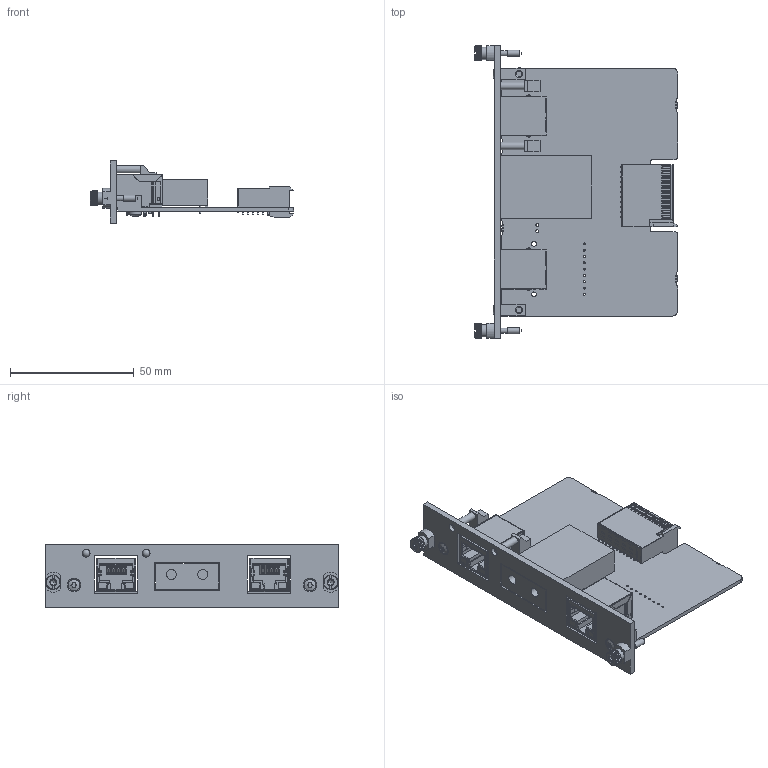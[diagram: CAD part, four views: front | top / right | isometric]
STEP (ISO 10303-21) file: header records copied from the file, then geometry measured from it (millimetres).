
FILE_DESCRIPTION(/* description */ (''),/* implementation_level */ '2;1');
FILE_NAME(/* name */ 'SIM6.3_3D CAD_20250318.stp',/* time_stamp */ '2025-03-18T14:05:01+01:00',/* author */ ('DSP'),/* organization */ (''),/* preprocessor_version */ 'ST-DEVELOPER v19.2',/* originating_system */ 'Autodesk Inventor 2023',/* authorisation */ '');
FILE_SCHEMA (('AUTOMOTIVE_DESIGN { 1 0 10303 214 3 1 1 }'));
Products named in the file (1): SIM6.3_3D CAD_SMPL_20250318
Bounding box: 81.9 x 117.85 x 25.06 mm (x, y, z)
Volume: 36006.1 mm3; surface area: 41422.7 mm2
Topology: 12 solids, 12 shells, 6429 faces, 18378 edges, 11948 vertices
Faces by surface type: plane 4336, cylinder 1895, cone 78, sphere 49, torus 47, bspline 24
Full cylindrical faces by diameter (mm): 0.46 x9, 0.6 x4, 0.7 x66, 0.8 x18, 0.9 x16, 1 x8, 1.15 x6, 1.27 x2, 1.422 x4, 1.59 x2, 1.6 x4, 1.9 x4, 2 x2, 2.5 x4, 2.9 x2, 2.997 x2, 3.2 x2, 4 x2, 4.7 x2, 5 x4
Entity records: 218996 total; most frequent: CARTESIAN_POINT 42055, ORIENTED_EDGE 36662, DIRECTION 34495, EDGE_CURVE 18331, LINE 13479, VECTOR 13479, VERTEX_POINT 11948, AXIS2_PLACEMENT_3D 10508
